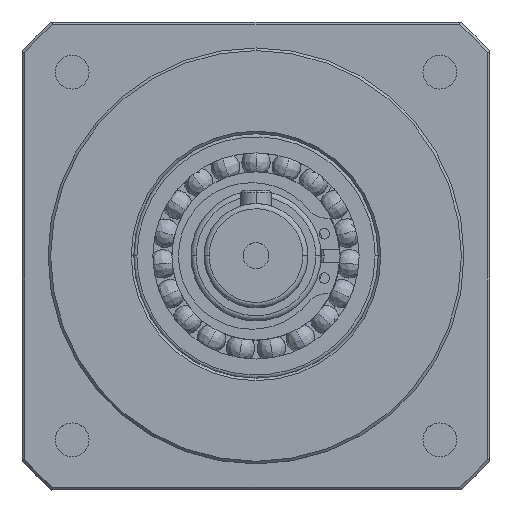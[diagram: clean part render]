
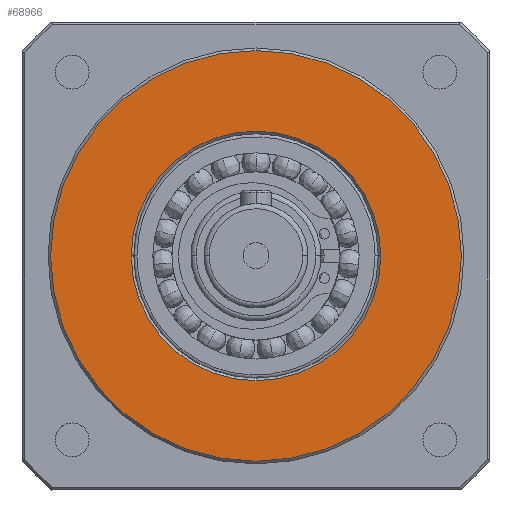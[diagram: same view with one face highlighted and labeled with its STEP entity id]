
A CAD part, top view. The second image highlights one B-rep face of the part: STEP entity #68966.
In plain terms, the highlighted planar face has unit normal (0, 0, 1).
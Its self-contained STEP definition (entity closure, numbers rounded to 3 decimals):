
#48 = EDGE_LOOP ( 'NONE', ( #1140, #11149 ) ) ;
#140 = DIRECTION ( 'NONE',  ( 1., 0., 0. ) ) ;
#501 = DIRECTION ( 'NONE',  ( 0., 1., 0. ) ) ;
#971 = VERTEX_POINT ( 'NONE', #50871 ) ;
#1140 = ORIENTED_EDGE ( 'NONE', *, *, #56603, .T. ) ;
#1734 = FACE_BOUND ( 'NONE', #16796, .T. ) ;
#1774 = CARTESIAN_POINT ( 'NONE',  ( 24., 0., 13. ) ) ;
#2041 = CARTESIAN_POINT ( 'NONE',  ( 0., 39.5, 13. ) ) ;
#6161 = DIRECTION ( 'NONE',  ( 0., 0., 1. ) ) ;
#7036 = ORIENTED_EDGE ( 'NONE', *, *, #71495, .T. ) ;
#7509 = CIRCLE ( 'NONE', #23611, 39.5 ) ;
#11149 = ORIENTED_EDGE ( 'NONE', *, *, #52282, .T. ) ;
#16581 = DIRECTION ( 'NONE',  ( 0., 0., -1. ) ) ;
#16796 = EDGE_LOOP ( 'NONE', ( #7036, #21652 ) ) ;
#18685 = VERTEX_POINT ( 'NONE', #2041 ) ;
#21652 = ORIENTED_EDGE ( 'NONE', *, *, #21849, .T. ) ;
#21849 = EDGE_CURVE ( 'NONE', #971, #58192, #55939, .T. ) ;
#23586 = AXIS2_PLACEMENT_3D ( 'NONE', #67533, #33725, #140 ) ;
#23611 = AXIS2_PLACEMENT_3D ( 'NONE', #67906, #34099, #501 ) ;
#29131 = CIRCLE ( 'NONE', #61012, 39.5 ) ;
#33143 = CARTESIAN_POINT ( 'NONE',  ( -39.974, -39.974, 13. ) ) ;
#33725 = DIRECTION ( 'NONE',  ( 0., 0., -1. ) ) ;
#34099 = DIRECTION ( 'NONE',  ( 0., 0., 1. ) ) ;
#38821 = DIRECTION ( 'NONE',  ( 1., 0., 0. ) ) ;
#39779 = CARTESIAN_POINT ( 'NONE',  ( 0., 0., 13. ) ) ;
#43816 = CARTESIAN_POINT ( 'NONE',  ( 0., -39.5, 13. ) ) ;
#45437 = DIRECTION ( 'NONE',  ( 0., 1., 0. ) ) ;
#49868 = PLANE ( 'NONE',  #68088 ) ;
#50096 = FACE_OUTER_BOUND ( 'NONE', #48, .T. ) ;
#50215 = CARTESIAN_POINT ( 'NONE',  ( 0., 0., 13. ) ) ;
#50871 = CARTESIAN_POINT ( 'NONE',  ( -24., 0., 13. ) ) ;
#52282 = EDGE_CURVE ( 'NONE', #68538, #18685, #7509, .T. ) ;
#55373 = AXIS2_PLACEMENT_3D ( 'NONE', #50215, #16581, #55850 ) ;
#55850 = DIRECTION ( 'NONE',  ( 1., 0., 0. ) ) ;
#55939 = CIRCLE ( 'NONE', #23586, 24. ) ;
#56603 = EDGE_CURVE ( 'NONE', #18685, #68538, #29131, .T. ) ;
#58192 = VERTEX_POINT ( 'NONE', #1774 ) ;
#61012 = AXIS2_PLACEMENT_3D ( 'NONE', #39779, #6161, #45437 ) ;
#67533 = CARTESIAN_POINT ( 'NONE',  ( 0., 0., 13. ) ) ;
#67906 = CARTESIAN_POINT ( 'NONE',  ( 0., 0., 13. ) ) ;
#68088 = AXIS2_PLACEMENT_3D ( 'NONE', #33143, #72629, #38821 ) ;
#68538 = VERTEX_POINT ( 'NONE', #43816 ) ;
#68966 = ADVANCED_FACE ( 'NONE', ( #1734, #50096 ), #49868, .T. ) ;
#71495 = EDGE_CURVE ( 'NONE', #58192, #971, #72896, .T. ) ;
#72629 = DIRECTION ( 'NONE',  ( 0., 0., 1. ) ) ;
#72896 = CIRCLE ( 'NONE', #55373, 24. ) ;
